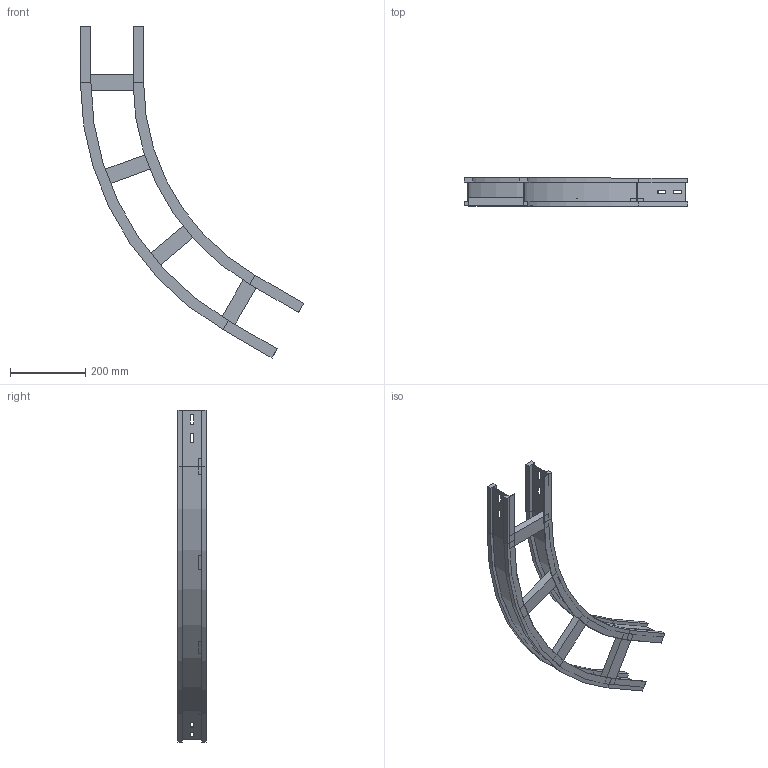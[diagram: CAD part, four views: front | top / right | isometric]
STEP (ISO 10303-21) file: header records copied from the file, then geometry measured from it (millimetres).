
FILE_DESCRIPTION (( 'STEP AP214' ), '1' );
FILE_NAME ('13S6C150.step', '2025-02-21T16:08:10', ( '' ), ( '' ), 'SwSTEP 2.0', 'SolidWorks 2023', '' );
FILE_SCHEMA (( 'AUTOMOTIVE_DESIGN' ));
Length unit declared in the file: millimetre
Products named in the file (4): LONGH.INTERNO 60°_H75_R600; 13S6C150; TRAVERSINO_150; LONGH.ESTERNO 60°_H75_R600+150
Assembly tree (6 placements, depth 2):
  13S6C150
    LONGH.INTERNO 60°_H75_R600
    LONGH.ESTERNO 60°_H75_R600+150
    TRAVERSINO_150  x4
Bounding box: 593.4 x 75 x 882.31 mm (x, y, z)
Volume: 1465838.9 mm3; surface area: 574203 mm2
Topology: 6 solids, 6 shells, 132 faces, 312 edges, 192 vertices
Faces by surface type: plane 120, cylinder 12
Entity records: 3397 total; most frequent: CARTESIAN_POINT 567, ORIENTED_EDGE 552, DIRECTION 546, EDGE_CURVE 276, LINE 252, VECTOR 252, VERTEX_POINT 168, AXIS2_PLACEMENT_3D 147
